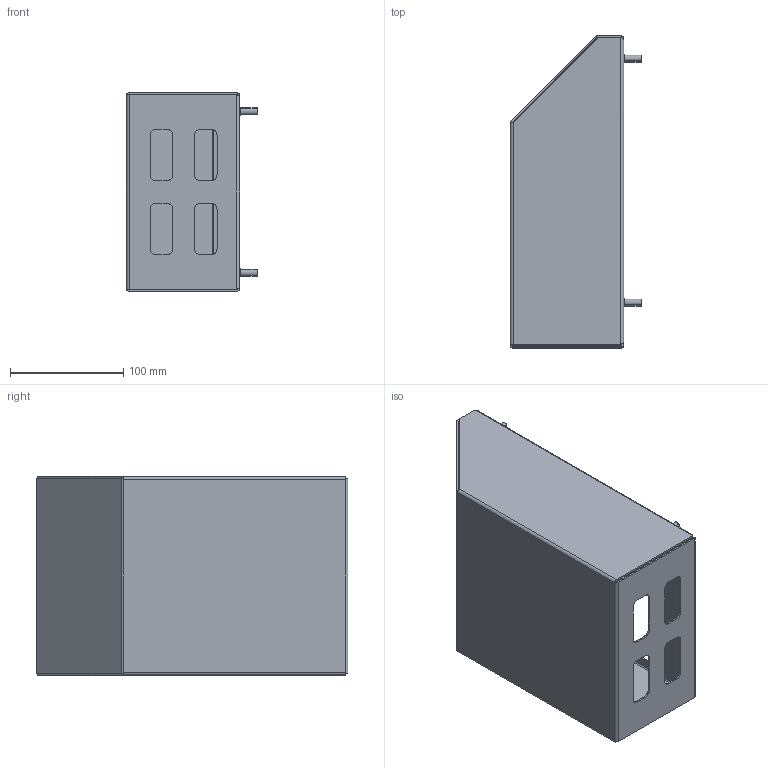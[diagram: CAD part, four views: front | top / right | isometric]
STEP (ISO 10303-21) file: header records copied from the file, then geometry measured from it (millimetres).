
FILE_DESCRIPTION (( 'STEP AP203' ), '1' );
FILE_NAME ('EFCS22_V2.step', '2014-09-23T08:42:37', ( '' ), ( '' ), 'SwSTEP 2.0', 'SolidWorks 2014', '' );
FILE_SCHEMA (( 'CONFIG_CONTROL_DESIGN' ));
Length unit declared in the file: millimetre
Products named in the file (3): EFCS22_V2; EFCS_02; 7908-0815-15_M6x16
Assembly tree (5 placements, depth 2):
  EFCS22_V2
    EFCS_02
    7908-0815-15_M6x16  x4
Bounding box: 116 x 275 x 175 mm (x, y, z)
Volume: 206875.2 mm3; surface area: 278559.1 mm2
Topology: 5 solids, 5 shells, 182 faces, 420 edges, 248 vertices
Faces by surface type: plane 98, cylinder 60, cone 16, bspline 8
Entity records: 4885 total; most frequent: CARTESIAN_POINT 1029, DIRECTION 716, ORIENTED_EDGE 716, EDGE_CURVE 358, LINE 240, VECTOR 240, AXIS2_PLACEMENT_3D 238, VERTEX_POINT 215
